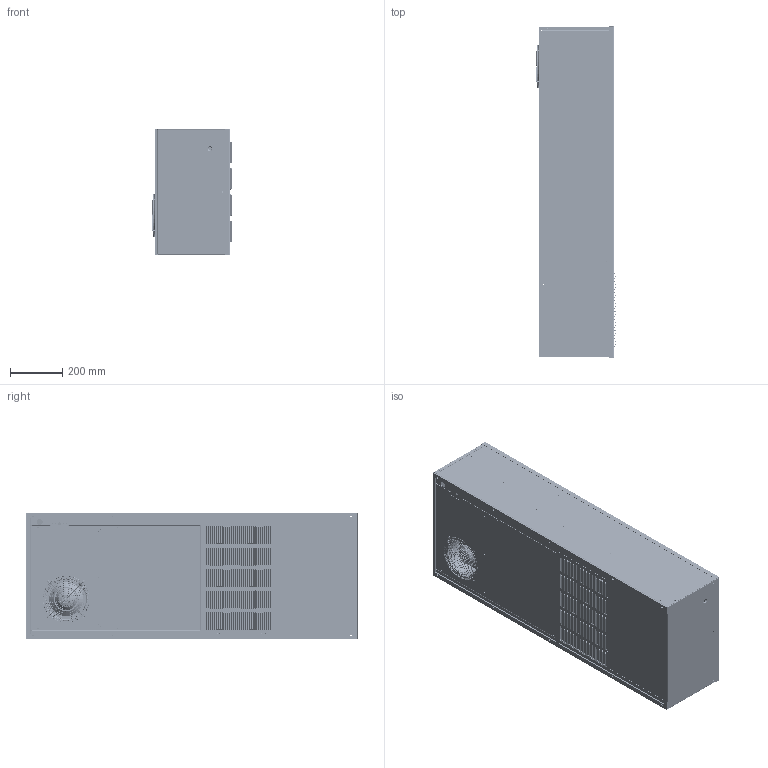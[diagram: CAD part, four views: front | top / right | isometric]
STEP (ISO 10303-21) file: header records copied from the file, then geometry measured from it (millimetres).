
FILE_DESCRIPTION((''),'2;1');
FILE_NAME('00-1000-85_ASM','2010-04-16T',('fhalvors'),(''),'PRO/ENGINEER BY PARAMETRIC TECHNOLOGY CORPORATION, 2006510','PRO/ENGINEER BY PARAMETRIC TECHNOLOGY CORPORATION, 2006510','');
FILE_SCHEMA(('CONFIG_CONTROL_DESIGN'));
Length unit declared in the file: inch
Products named in the file (55): 50-6050-00; 50-6051-00; 50600601; 50-6036-01; 50-6036-01_ASM; IMPELLER_R2E220-AA; 50-6041-01; T50_DD9_4AT_SCROLL-2; 10-1020-32_M; MOTOR-MNT2; T50-MOTOR-GROMMET; 10-1020-32_ASM; T50-COND-BLWR-2_ASM; 50-6056-00; 10-1000-83; 50-6042-01; 36-5000-09; 50-6042-02_ASM; 50-6033-02; 250PEMNUT; 10PEMNUT; 50-6033-02_ASM; 50-6032-02; 50-6032-02_ASM; 50-6010-01; 50-6034-02; 50-6034-02_ASM; 50-6030-02; 50-6030-02_ASM; 50-6031-06; 50-6031-06_ASM; 50-6052-00; 10-1003-31; 50-6072-00; 13-1014-02; 50-6018-01A; 50-6018-01C; 50-6059-00; 50-6018-01B; 50-6066-00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
Assembly tree (93 placements, depth 4):
  00-1000-85_ASM
    50-6050-00
    50-6051-00
    50600601
    50-6036-01_ASM
      50-6036-01
    IMPELLER_R2E220-AA
    50-6041-01  x2
    T50-COND-BLWR-2_ASM
      T50_DD9_4AT_SCROLL-2
      10-1020-32_ASM
        10-1020-32_M
        MOTOR-MNT2
        T50-MOTOR-GROMMET  x3
    50-6056-00
    10-1000-83
    50-6042-02_ASM
      50-6042-01
      36-5000-09
    50-6033-02_ASM
      50-6033-02
      250PEMNUT  x8
      10PEMNUT  x3
    50-6032-02_ASM
      50-6032-02
      250PEMNUT  x8
      10PEMNUT  x3
    50-6010-01
    50-6034-02_ASM
      50-6034-02
      250PEMNUT  x2
    50-6030-02_ASM
      50-6030-02
    50-6031-06_ASM
      50-6031-06
      10PEMNUT  x6
    50-6052-00
    10-1003-31
    50-6072-00
    13-1014-02
    50-6018-01A  x2
    50-6018-01C  x2
    50-6059-00
    50-6018-01B
    50606500_ASM
      50-6066-00
      36-5000-09
    50-6058-04_ASM
      50-6058-04
    50-6055-00
    50607000
    50-6071-00_ASM
      50-6071-00
      10PEMNUT  x3
    50607300
    10-1026-107
    T50-HEATER_ASM  x2
      50602101
      10103812
      10-1033-01
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Bounding box: 306.38 x 1274.06 x 486.66 mm (x, y, z)
Volume: 38789921.1 mm3; surface area: 9979453.9 mm2
Topology: 104 solids, 136 shells, 9379 faces, 23740 edges, 14656 vertices
Faces by surface type: plane 4418, cylinder 3037, bspline 1163, torus 541, cone 188, sphere 32
Entity records: 276596 total; most frequent: CARTESIAN_POINT 72166, ORIENTED_EDGE 42126, DIRECTION 41130, EDGE_CURVE 21063, VECTOR 14802, LINE 14802, AXIS2_PLACEMENT_3D 13164, VERTEX_POINT 12973
